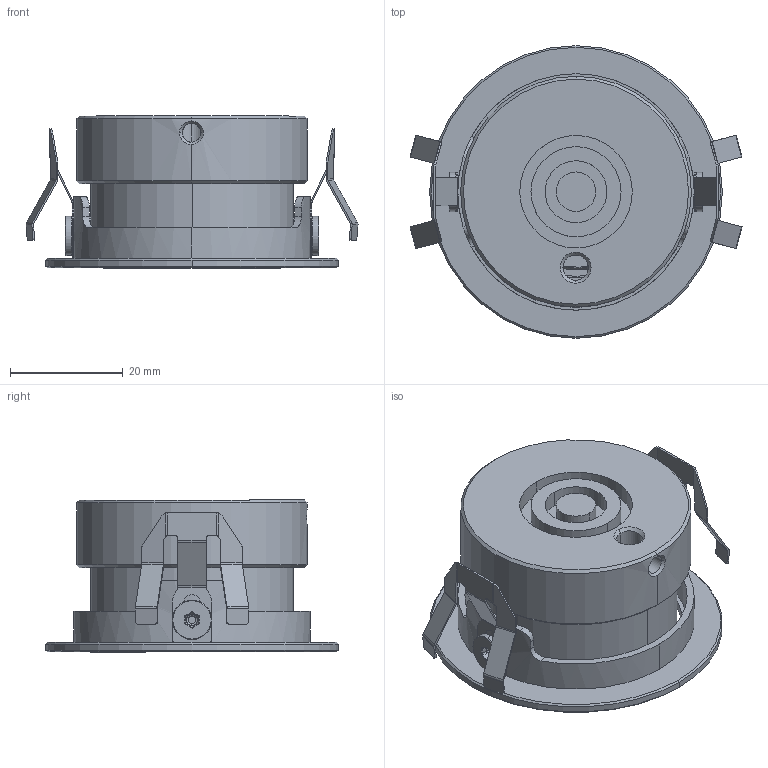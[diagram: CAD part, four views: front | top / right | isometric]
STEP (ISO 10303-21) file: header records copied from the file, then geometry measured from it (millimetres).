
FILE_DESCRIPTION(/* description */ (''),/* implementation_level */ '2;1');
FILE_NAME(/* name */ 'Kivi_5W_3d',/* time_stamp */ '2026-09-29T13:04:52+02:00',/* author */ (''),/* organization */ (''),/* preprocessor_version */ 'ST-DEVELOPER v19.2',/* originating_system */ 'Rhino 8.23',/* authorisation */ '');
FILE_SCHEMA (('CONFIG_CONTROL_DESIGN'));
Length unit declared in the file: millimetre
Products named in the file (2): Document; KIVI_5W_3D
Bounding box: 58.99 x 52 x 27.02 mm (x, y, z)
Surface area: 22640.2 mm2
Topology: 1 solids, 375 shells, 1286 faces, 4418 edges, 3525 vertices
Faces by surface type: plane 701, cylinder 354, bspline 231
Entity records: 52308 total; most frequent: CARTESIAN_POINT 22609, ORIENTED_EDGE 6641, EDGE_CURVE 4418, B_SPLINE_CURVE_WITH_KNOTS 3587, VERTEX_POINT 3525, DIRECTION 2343, AXIS2_PLACEMENT_3D 1699, EDGE_LOOP 1479
